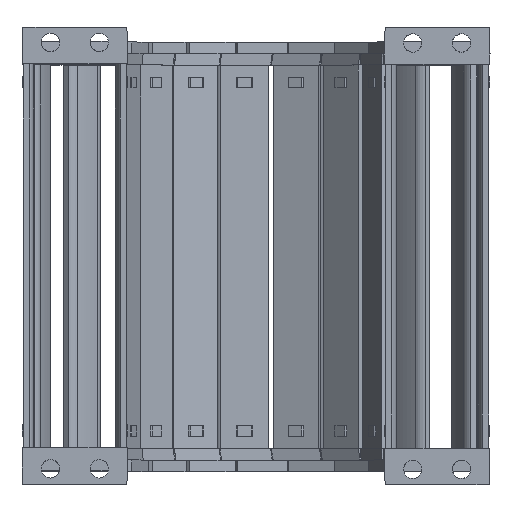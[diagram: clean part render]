
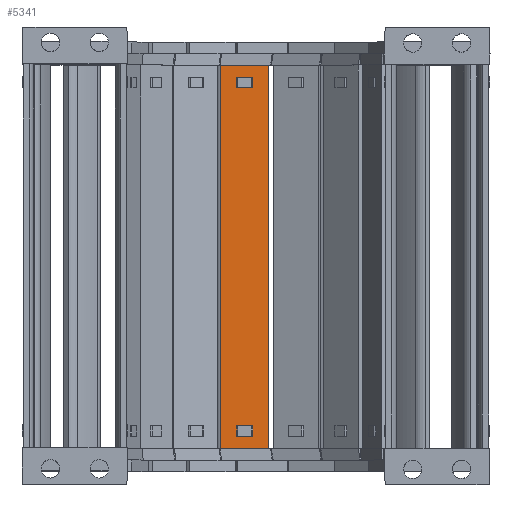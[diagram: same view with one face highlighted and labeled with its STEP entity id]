
A CAD part, top view. The second image highlights one B-rep face of the part: STEP entity #5341.
In plain terms, the highlighted planar face has unit normal (0.035, 0, 0.999).
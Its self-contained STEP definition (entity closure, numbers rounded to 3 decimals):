
#293=FACE_BOUND('',#15295,.T.);
#294=FACE_BOUND('',#15296,.T.);
#295=FACE_BOUND('',#15297,.T.);
#5341=ADVANCED_FACE('',(#293,#294,#295),#8414,.F.);
#8414=PLANE('',#76721);
#15295=EDGE_LOOP('',(#41093,#41094,#41095,#41096));
#15296=EDGE_LOOP('',(#41097,#41098,#41099,#41100));
#15297=EDGE_LOOP('',(#41101,#41102,#41103,#41104));
#21407=LINE('',#117715,#27585);
#21409=LINE('',#117719,#27587);
#21411=LINE('',#117723,#27589);
#21412=LINE('',#117725,#27590);
#21419=LINE('',#117740,#27597);
#21421=LINE('',#117744,#27599);
#21423=LINE('',#117748,#27601);
#21424=LINE('',#117750,#27602);
#21425=LINE('',#117752,#27603);
#21426=LINE('',#117755,#27604);
#21427=LINE('',#117757,#27605);
#21428=LINE('',#117759,#27606);
#27585=VECTOR('',#90400,1.);
#27587=VECTOR('',#90404,1.);
#27589=VECTOR('',#90408,1.);
#27590=VECTOR('',#90411,1.);
#27597=VECTOR('',#90422,1.);
#27599=VECTOR('',#90426,1.);
#27601=VECTOR('',#90430,1.);
#27602=VECTOR('',#90433,1.);
#27603=VECTOR('',#90436,1.);
#27604=VECTOR('',#90437,1.);
#27605=VECTOR('',#90438,1.);
#27606=VECTOR('',#90439,1.);
#41093=ORIENTED_EDGE('',*,*,#65015,.F.);
#41094=ORIENTED_EDGE('',*,*,#65013,.F.);
#41095=ORIENTED_EDGE('',*,*,#65011,.T.);
#41096=ORIENTED_EDGE('',*,*,#65016,.T.);
#41097=ORIENTED_EDGE('',*,*,#65027,.F.);
#41098=ORIENTED_EDGE('',*,*,#65025,.T.);
#41099=ORIENTED_EDGE('',*,*,#65023,.T.);
#41100=ORIENTED_EDGE('',*,*,#65028,.F.);
#41101=ORIENTED_EDGE('',*,*,#65029,.F.);
#41102=ORIENTED_EDGE('',*,*,#65030,.F.);
#41103=ORIENTED_EDGE('',*,*,#65031,.T.);
#41104=ORIENTED_EDGE('',*,*,#65032,.T.);
#56103=VERTEX_POINT('',#117712);
#56104=VERTEX_POINT('',#117714);
#56105=VERTEX_POINT('',#117718);
#56106=VERTEX_POINT('',#117722);
#56111=VERTEX_POINT('',#117737);
#56112=VERTEX_POINT('',#117739);
#56113=VERTEX_POINT('',#117743);
#56114=VERTEX_POINT('',#117747);
#56115=VERTEX_POINT('',#117753);
#56116=VERTEX_POINT('',#117754);
#56117=VERTEX_POINT('',#117756);
#56118=VERTEX_POINT('',#117758);
#65011=EDGE_CURVE('',#56103,#56104,#21407,.T.);
#65013=EDGE_CURVE('',#56103,#56105,#21409,.T.);
#65015=EDGE_CURVE('',#56105,#56106,#21411,.T.);
#65016=EDGE_CURVE('',#56104,#56106,#21412,.T.);
#65023=EDGE_CURVE('',#56111,#56112,#21419,.T.);
#65025=EDGE_CURVE('',#56113,#56111,#21421,.T.);
#65027=EDGE_CURVE('',#56113,#56114,#21423,.T.);
#65028=EDGE_CURVE('',#56114,#56112,#21424,.T.);
#65029=EDGE_CURVE('',#56115,#56116,#21425,.T.);
#65030=EDGE_CURVE('',#56117,#56115,#21426,.T.);
#65031=EDGE_CURVE('',#56117,#56118,#21427,.T.);
#65032=EDGE_CURVE('',#56118,#56116,#21428,.T.);
#76721=AXIS2_PLACEMENT_3D('',#117760,#90440,#90441);
#90400=DIRECTION('',(0.,1.,0.));
#90404=DIRECTION('',(0.999,0.,-0.035));
#90408=DIRECTION('',(0.,1.,0.));
#90411=DIRECTION('',(0.999,0.,-0.035));
#90422=DIRECTION('',(0.,-1.,0.));
#90426=DIRECTION('',(0.999,0.,-0.035));
#90430=DIRECTION('',(0.,-1.,0.));
#90433=DIRECTION('',(0.999,0.,-0.035));
#90436=DIRECTION('',(0.,1.,0.));
#90437=DIRECTION('',(-0.999,0.,0.035));
#90438=DIRECTION('',(0.,1.,0.));
#90439=DIRECTION('',(-0.999,0.,0.035));
#90440=DIRECTION('',(-0.035,0.,-0.999));
#90441=DIRECTION('',(-0.999,0.,0.035));
#117712=CARTESIAN_POINT('',(-65.615,-121.5,-62.316));
#117714=CARTESIAN_POINT('',(-65.615,-118.,-62.316));
#117715=CARTESIAN_POINT('',(-65.615,-68.26,-62.316));
#117718=CARTESIAN_POINT('',(-60.267,-121.5,-62.503));
#117719=CARTESIAN_POINT('',(-65.615,-121.5,-62.316));
#117722=CARTESIAN_POINT('',(-60.267,-118.,-62.503));
#117723=CARTESIAN_POINT('',(-60.267,-100.,-62.503));
#117725=CARTESIAN_POINT('',(-65.615,-118.,-62.316));
#117737=CARTESIAN_POINT('',(-60.267,-4.,-62.503));
#117739=CARTESIAN_POINT('',(-60.267,-7.5,-62.503));
#117740=CARTESIAN_POINT('',(-60.267,-4.,-62.503));
#117743=CARTESIAN_POINT('',(-65.615,-4.,-62.316));
#117744=CARTESIAN_POINT('',(-65.615,-4.,-62.316));
#117747=CARTESIAN_POINT('',(-65.615,-7.5,-62.316));
#117748=CARTESIAN_POINT('',(-65.615,-4.,-62.316));
#117750=CARTESIAN_POINT('',(-65.615,-7.5,-62.316));
#117752=CARTESIAN_POINT('',(-70.836,-25.26,-62.134));
#117753=CARTESIAN_POINT('',(-70.836,-125.5,-62.134));
#117754=CARTESIAN_POINT('',(-70.836,0.,-62.134));
#117755=CARTESIAN_POINT('',(-73.083,-125.5,-62.056));
#117756=CARTESIAN_POINT('',(-55.046,-125.5,-62.685));
#117757=CARTESIAN_POINT('',(-55.046,-25.5,-62.685));
#117758=CARTESIAN_POINT('',(-55.046,0.,-62.685));
#117759=CARTESIAN_POINT('',(-55.046,0.,-62.685));
#117760=CARTESIAN_POINT('',(-52.887,31.74,-62.761));
